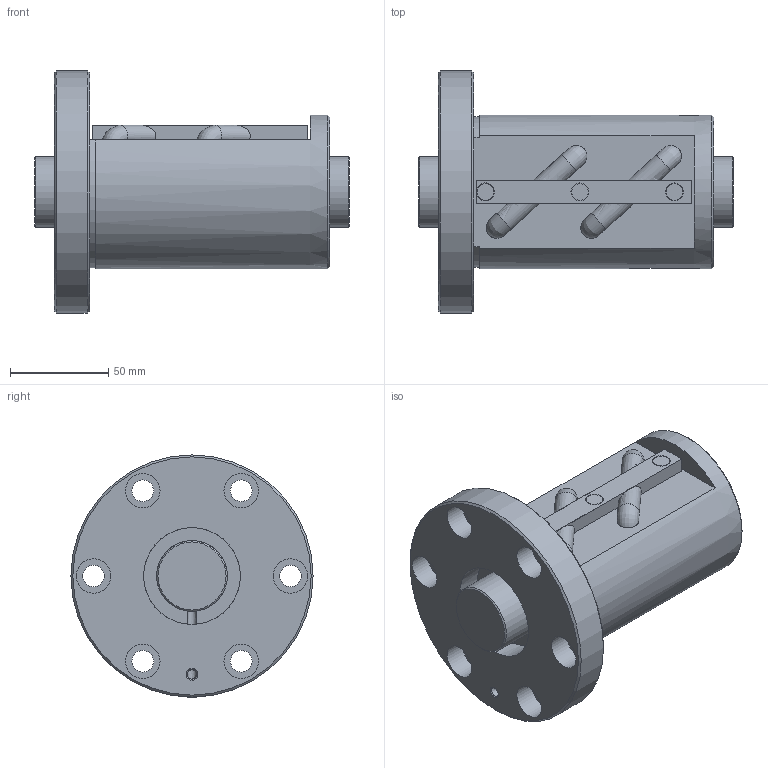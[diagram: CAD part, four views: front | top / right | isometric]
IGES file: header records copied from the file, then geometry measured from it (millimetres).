
Start section: Data from Parasolid IGES Translator 26.0.171, Copyright(c) 2006 Siemens PLM Software. All Rights Reserved.
Global section: file name: BIF3616V-5RRG0+160LC0_000.igs; native system: By Siemens PLM Incorporated; preprocessor: XPlus GENERIC/IGES 26.0.171; author: Noname; organization: Noname; date: 20240715.082402; units: millimetre
Bounding box: 160 x 123 x 123 mm (x, y, z)
Surface area: 102835.6 mm2 (no closed solid volume)
Topology: 0 solids, 0 shells, 94 faces, 446 edges, 402 vertices
Faces by surface type: revolution 51, extrusion 43
